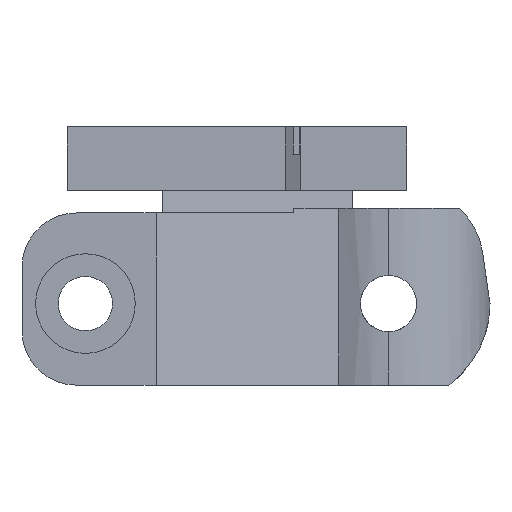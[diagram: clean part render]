
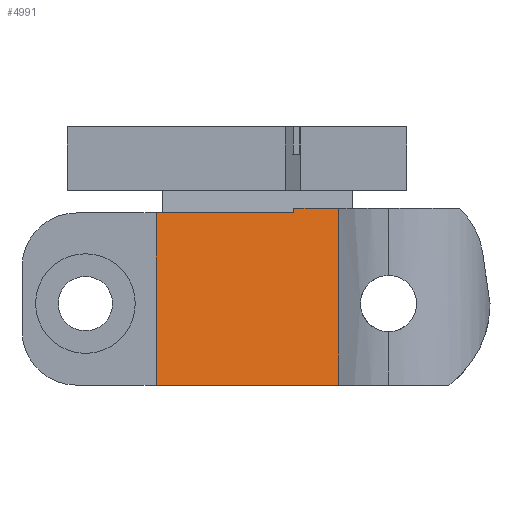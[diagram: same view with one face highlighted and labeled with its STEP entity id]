
A CAD part, left-side view. The second image highlights one B-rep face of the part: STEP entity #4991.
In plain terms, the highlighted planar face has unit normal (-0.967, -0.255, 0).
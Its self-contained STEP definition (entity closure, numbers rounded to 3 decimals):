
#17 = CARTESIAN_POINT ( 'NONE',  ( -51.25, 11.562, 17. ) ) ;
#92 = VECTOR ( 'NONE', #3390, 1000. ) ;
#140 = CARTESIAN_POINT ( 'NONE',  ( -56.57, 31.7, 36.5 ) ) ;
#395 = LINE ( 'NONE', #3114, #3126 ) ;
#472 = DIRECTION ( 'NONE',  ( -0.967, -0.255, 0. ) ) ;
#491 = VERTEX_POINT ( 'NONE', #2217 ) ;
#597 = ORIENTED_EDGE ( 'NONE', *, *, #3264, .F. ) ;
#632 = VERTEX_POINT ( 'NONE', #4582 ) ;
#693 = VECTOR ( 'NONE', #4500, 1000. ) ;
#726 = EDGE_LOOP ( 'NONE', ( #4570, #3453, #597, #3686, #2565, #3669 ) ) ;
#1213 = PLANE ( 'NONE',  #3904 ) ;
#1258 = LINE ( 'NONE', #4351, #2677 ) ;
#1265 = VERTEX_POINT ( 'NONE', #17 ) ;
#1276 = DIRECTION ( 'NONE',  ( -0.255, 0.967, 0. ) ) ;
#1545 = DIRECTION ( 'NONE',  ( -0.255, 0.967, 0. ) ) ;
#1657 = DIRECTION ( 'NONE',  ( 0., 0., 1. ) ) ;
#1743 = LINE ( 'NONE', #4512, #92 ) ;
#1813 = EDGE_CURVE ( 'NONE', #491, #3822, #2187, .T. ) ;
#2187 = LINE ( 'NONE', #140, #2371 ) ;
#2192 = EDGE_CURVE ( 'NONE', #3808, #3822, #3386, .T. ) ;
#2217 = CARTESIAN_POINT ( 'NONE',  ( -56.57, 31.7, 17. ) ) ;
#2320 = CARTESIAN_POINT ( 'NONE',  ( -51.25, 11.562, 36.5 ) ) ;
#2371 = VECTOR ( 'NONE', #1657, 1000. ) ;
#2565 = ORIENTED_EDGE ( 'NONE', *, *, #4266, .T. ) ;
#2677 = VECTOR ( 'NONE', #1276, 1000. ) ;
#2819 = DIRECTION ( 'NONE',  ( 0.255, -0.967, 0. ) ) ;
#2856 = CARTESIAN_POINT ( 'NONE',  ( -56.57, 31.7, 36. ) ) ;
#2895 = CARTESIAN_POINT ( 'NONE',  ( -52.555, 16.5, 36. ) ) ;
#2956 = LINE ( 'NONE', #3731, #693 ) ;
#3114 = CARTESIAN_POINT ( 'NONE',  ( -51.25, 11.562, 17. ) ) ;
#3126 = VECTOR ( 'NONE', #4167, 1000. ) ;
#3155 = EDGE_CURVE ( 'NONE', #632, #3808, #1743, .T. ) ;
#3176 = EDGE_CURVE ( 'NONE', #1265, #4724, #2956, .T. ) ;
#3264 = EDGE_CURVE ( 'NONE', #1265, #491, #395, .T. ) ;
#3386 = LINE ( 'NONE', #4951, #4554 ) ;
#3390 = DIRECTION ( 'NONE',  ( 0., 0., -1. ) ) ;
#3453 = ORIENTED_EDGE ( 'NONE', *, *, #1813, .F. ) ;
#3669 = ORIENTED_EDGE ( 'NONE', *, *, #3155, .T. ) ;
#3686 = ORIENTED_EDGE ( 'NONE', *, *, #3176, .T. ) ;
#3731 = CARTESIAN_POINT ( 'NONE',  ( -51.25, 11.562, 36.5 ) ) ;
#3808 = VERTEX_POINT ( 'NONE', #2895 ) ;
#3822 = VERTEX_POINT ( 'NONE', #2856 ) ;
#3904 = AXIS2_PLACEMENT_3D ( 'NONE', #3914, #472, #2819 ) ;
#3914 = CARTESIAN_POINT ( 'NONE',  ( -56.57, 31.7, 36.5 ) ) ;
#4167 = DIRECTION ( 'NONE',  ( -0.255, 0.967, 0. ) ) ;
#4201 = FACE_OUTER_BOUND ( 'NONE', #726, .T. ) ;
#4266 = EDGE_CURVE ( 'NONE', #4724, #632, #1258, .T. ) ;
#4351 = CARTESIAN_POINT ( 'NONE',  ( -51.25, 11.562, 36.5 ) ) ;
#4500 = DIRECTION ( 'NONE',  ( 0., 0., 1. ) ) ;
#4512 = CARTESIAN_POINT ( 'NONE',  ( -52.555, 16.5, 36.5 ) ) ;
#4554 = VECTOR ( 'NONE', #1545, 1000. ) ;
#4570 = ORIENTED_EDGE ( 'NONE', *, *, #2192, .T. ) ;
#4582 = CARTESIAN_POINT ( 'NONE',  ( -52.555, 16.5, 36.5 ) ) ;
#4724 = VERTEX_POINT ( 'NONE', #2320 ) ;
#4951 = CARTESIAN_POINT ( 'NONE',  ( -52.555, 16.5, 36. ) ) ;
#4991 = ADVANCED_FACE ( 'NONE', ( #4201 ), #1213, .T. ) ;
